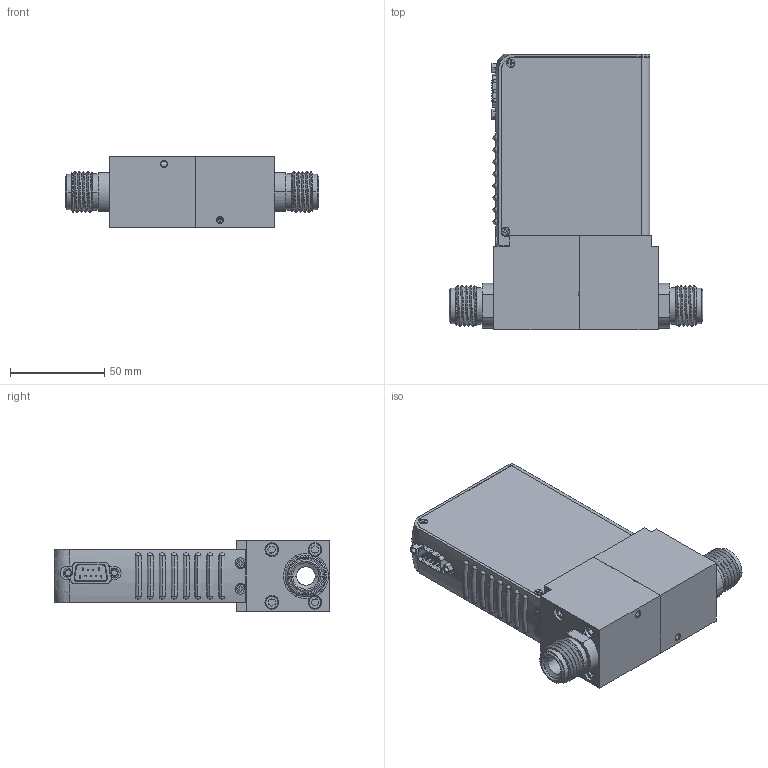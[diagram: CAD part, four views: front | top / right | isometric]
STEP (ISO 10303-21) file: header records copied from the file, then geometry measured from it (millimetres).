
FILE_DESCRIPTION (( 'STEP AP203' ), '1' );
FILE_NAME ('GF101-GF121-GF126-V1-SX1.STEP', '2022-07-25T14:44:19', ( '' ), ( '' ), 'SwSTEP 2.0', 'SolidWorks 2020', '' );
FILE_SCHEMA (( 'CONFIG_CONTROL_DESIGN' ));
Products named in the file (1): GF101-GF121-GF126-V1-SX1
Bounding box: 134.21 x 146.05 x 37.59 mm (x, y, z)
Volume: 113861.4 mm3; surface area: 98264.8 mm2
Topology: 23 solids, 23 shells, 1247 faces, 3216 edges, 2059 vertices
Faces by surface type: plane 709, cylinder 295, cone 156, bspline 86, torus 1
Entity records: 46241 total; most frequent: CARTESIAN_POINT 16157, ORIENTED_EDGE 6372, DIRECTION 5966, EDGE_CURVE 3186, VECTOR 2116, LINE 2116, VERTEX_POINT 2059, AXIS2_PLACEMENT_3D 1925
